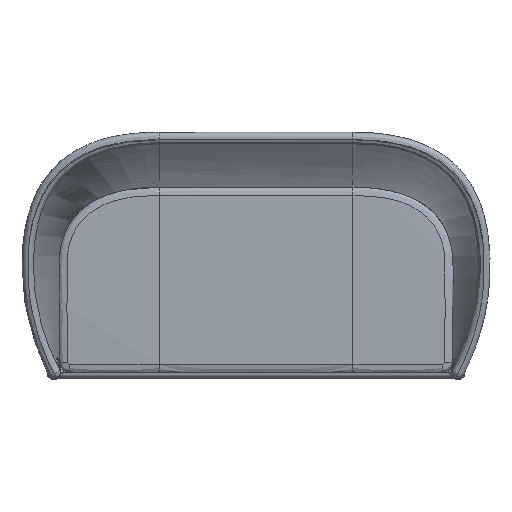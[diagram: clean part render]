
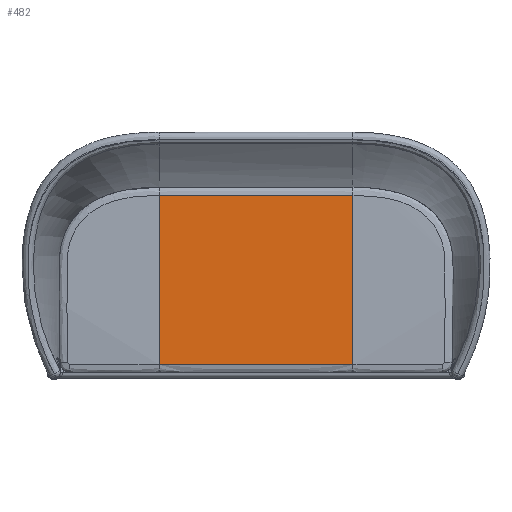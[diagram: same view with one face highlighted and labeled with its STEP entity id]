
A CAD part, top view. The second image highlights one B-rep face of the part: STEP entity #482.
In plain terms, the highlighted free-form (B-spline) face has degree [2, 1] with [9, 2] control points.
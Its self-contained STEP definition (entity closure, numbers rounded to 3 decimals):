
#482=ADVANCED_FACE('',(#672),#2892,.T.);
#672=FACE_OUTER_BOUND('',#866,.T.);
#866=EDGE_LOOP('',(#1708,#1709,#1710,#1711));
#1708=ORIENTED_EDGE('',*,*,#2201,.T.);
#1709=ORIENTED_EDGE('',*,*,#2200,.T.);
#1710=ORIENTED_EDGE('',*,*,#2202,.T.);
#1711=ORIENTED_EDGE('',*,*,#2204,.T.);
#2200=EDGE_CURVE('',#2753,#2749,#2466,.T.);
#2201=EDGE_CURVE('',#2754,#2753,#2467,.T.);
#2202=EDGE_CURVE('',#2749,#2755,#2468,.T.);
#2204=EDGE_CURVE('',#2755,#2754,#2470,.T.);
#2466=(
BOUNDED_CURVE()
B_SPLINE_CURVE(1,(#43028,#43029),.UNSPECIFIED.,.F.,.F.)
B_SPLINE_CURVE_WITH_KNOTS((2,2),(0.,480.32),.UNSPECIFIED.)
CURVE()
GEOMETRIC_REPRESENTATION_ITEM()
RATIONAL_B_SPLINE_CURVE((1.,1.))
REPRESENTATION_ITEM('')
);
#2467=(
BOUNDED_CURVE()
B_SPLINE_CURVE(2,(#43030,#43031,#43032),.UNSPECIFIED.,.F.,.F.)
B_SPLINE_CURVE_WITH_KNOTS((3,3),(-1.,0.),.UNSPECIFIED.)
CURVE()
GEOMETRIC_REPRESENTATION_ITEM()
RATIONAL_B_SPLINE_CURVE((1.,0.998,1.))
REPRESENTATION_ITEM('')
);
#2468=(
BOUNDED_CURVE()
B_SPLINE_CURVE(2,(#43033,#43034,#43035),.UNSPECIFIED.,.F.,.F.)
B_SPLINE_CURVE_WITH_KNOTS((3,3),(-1.,0.),.UNSPECIFIED.)
CURVE()
GEOMETRIC_REPRESENTATION_ITEM()
RATIONAL_B_SPLINE_CURVE((1.,0.998,1.))
REPRESENTATION_ITEM('')
);
#2470=(
BOUNDED_CURVE()
B_SPLINE_CURVE(1,(#43039,#43040),.UNSPECIFIED.,.F.,.F.)
B_SPLINE_CURVE_WITH_KNOTS((2,2),(-480.32,0.),.UNSPECIFIED.)
CURVE()
GEOMETRIC_REPRESENTATION_ITEM()
RATIONAL_B_SPLINE_CURVE((1.,1.))
REPRESENTATION_ITEM('')
);
#2749=VERTEX_POINT('',#42073);
#2753=VERTEX_POINT('',#42077);
#2754=VERTEX_POINT('',#42078);
#2755=VERTEX_POINT('',#42079);
#2892=(
BOUNDED_SURFACE()
B_SPLINE_SURFACE(2,1,((#41333,#41334),(#41335,#41336),(#41337,#41338),(#41339,
#41340),(#41341,#41342),(#41343,#41344),(#41345,#41346),(#41347,#41348),
(#41349,#41350)),.UNSPECIFIED.,.T.,.F.,.F.)
B_SPLINE_SURFACE_WITH_KNOTS((3,2,2,2,3),(2,2),(0.,5317.146,10634.291,
15951.437,21268.582),(0.,576.386),.UNSPECIFIED.)
GEOMETRIC_REPRESENTATION_ITEM()
RATIONAL_B_SPLINE_SURFACE(((1.,1.),(0.707,0.707),
(1.,1.),(0.707,0.707),(1.,1.),(0.707,
0.707),(1.,1.),(0.707,0.707),(1.,1.)))
REPRESENTATION_ITEM('')
SURFACE()
);
#41333=CARTESIAN_POINT('',(48.033,-349.993,-6320.));
#41334=CARTESIAN_POINT('',(-528.353,-349.993,-6320.));
#41335=CARTESIAN_POINT('',(48.033,-3734.993,-6320.));
#41336=CARTESIAN_POINT('',(-528.353,-3734.993,-6320.));
#41337=CARTESIAN_POINT('',(48.033,-3734.993,-2935.));
#41338=CARTESIAN_POINT('',(-528.353,-3734.993,-2935.));
#41339=CARTESIAN_POINT('',(48.033,-3734.993,450.));
#41340=CARTESIAN_POINT('',(-528.353,-3734.993,450.));
#41341=CARTESIAN_POINT('',(48.033,-349.993,450.));
#41342=CARTESIAN_POINT('',(-528.353,-349.993,450.));
#41343=CARTESIAN_POINT('',(48.033,3035.007,450.));
#41344=CARTESIAN_POINT('',(-528.353,3035.007,450.));
#41345=CARTESIAN_POINT('',(48.033,3035.007,-2935.));
#41346=CARTESIAN_POINT('',(-528.353,3035.007,-2935.));
#41347=CARTESIAN_POINT('',(48.033,3035.007,-6320.));
#41348=CARTESIAN_POINT('',(-528.353,3035.007,-6320.));
#41349=CARTESIAN_POINT('',(48.033,-349.993,-6320.));
#41350=CARTESIAN_POINT('',(-528.353,-349.993,-6320.));
#42073=CARTESIAN_POINT('',(-480.32,-155.723,444.42));
#42077=CARTESIAN_POINT('',(0.,-155.723,444.42));
#42078=CARTESIAN_POINT('',(0.,-575.667,442.469));
#42079=CARTESIAN_POINT('',(-480.32,-575.667,442.469));
#43028=CARTESIAN_POINT('',(0.,-155.723,444.42));
#43029=CARTESIAN_POINT('',(-480.32,-155.723,444.42));
#43030=CARTESIAN_POINT('',(0.,-575.667,442.469));
#43031=CARTESIAN_POINT('',(0.,-365.755,456.494));
#43032=CARTESIAN_POINT('',(0.,-155.723,444.42));
#43033=CARTESIAN_POINT('',(-480.32,-155.723,444.42));
#43034=CARTESIAN_POINT('',(-480.32,-365.755,456.494));
#43035=CARTESIAN_POINT('',(-480.32,-575.667,442.469));
#43039=CARTESIAN_POINT('',(-480.32,-575.667,442.469));
#43040=CARTESIAN_POINT('',(0.,-575.667,442.469));
